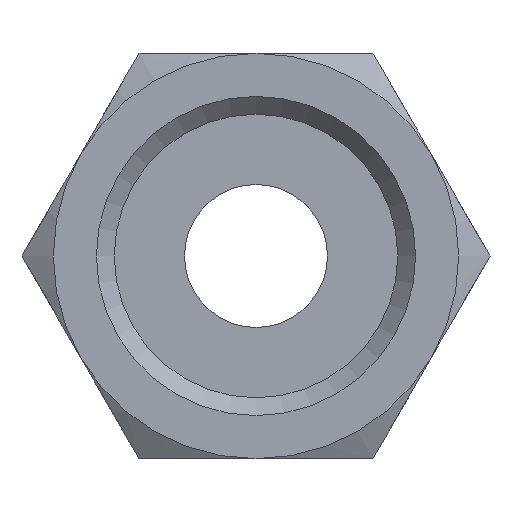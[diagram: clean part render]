
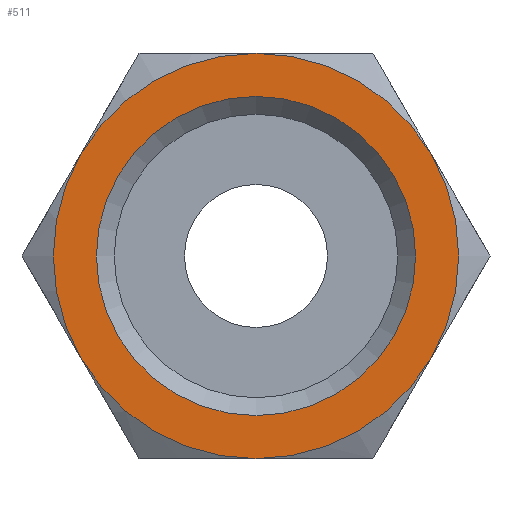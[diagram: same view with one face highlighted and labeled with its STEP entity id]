
A CAD part, front view. The second image highlights one B-rep face of the part: STEP entity #511.
In plain terms, the highlighted planar face has unit normal (0, -1, 0).
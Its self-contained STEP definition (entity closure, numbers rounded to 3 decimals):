
#39=FACE_BOUND('',#145,.T.);
#46=PLANE('',#573);
#110=FACE_OUTER_BOUND('',#144,.T.);
#144=EDGE_LOOP('',(#365,#366,#367,#368,#369,#370));
#145=EDGE_LOOP('',(#371));
#189=CIRCLE('',#572,6.695);
#190=CIRCLE('',#574,8.5);
#191=CIRCLE('',#575,8.5);
#192=CIRCLE('',#576,8.5);
#193=CIRCLE('',#577,8.5);
#194=CIRCLE('',#578,8.5);
#195=CIRCLE('',#579,8.5);
#228=VERTEX_POINT('',#818);
#229=VERTEX_POINT('',#822);
#230=VERTEX_POINT('',#823);
#231=VERTEX_POINT('',#825);
#232=VERTEX_POINT('',#827);
#233=VERTEX_POINT('',#829);
#234=VERTEX_POINT('',#831);
#282=EDGE_CURVE('',#228,#228,#189,.T.);
#283=EDGE_CURVE('',#229,#230,#190,.T.);
#284=EDGE_CURVE('',#230,#231,#191,.T.);
#285=EDGE_CURVE('',#231,#232,#192,.T.);
#286=EDGE_CURVE('',#232,#233,#193,.T.);
#287=EDGE_CURVE('',#233,#234,#194,.T.);
#288=EDGE_CURVE('',#234,#229,#195,.T.);
#365=ORIENTED_EDGE('',*,*,#283,.T.);
#366=ORIENTED_EDGE('',*,*,#284,.T.);
#367=ORIENTED_EDGE('',*,*,#285,.T.);
#368=ORIENTED_EDGE('',*,*,#286,.T.);
#369=ORIENTED_EDGE('',*,*,#287,.T.);
#370=ORIENTED_EDGE('',*,*,#288,.T.);
#371=ORIENTED_EDGE('',*,*,#282,.F.);
#511=ADVANCED_FACE('',(#110,#39),#46,.T.);
#572=AXIS2_PLACEMENT_3D('',#820,#660,#661);
#573=AXIS2_PLACEMENT_3D('',#821,#662,#663);
#574=AXIS2_PLACEMENT_3D('',#824,#664,#665);
#575=AXIS2_PLACEMENT_3D('',#826,#666,#667);
#576=AXIS2_PLACEMENT_3D('',#828,#668,#669);
#577=AXIS2_PLACEMENT_3D('',#830,#670,#671);
#578=AXIS2_PLACEMENT_3D('',#832,#672,#673);
#579=AXIS2_PLACEMENT_3D('',#833,#674,#675);
#660=DIRECTION('center_axis',(0.,-1.,0.));
#661=DIRECTION('ref_axis',(-1.,0.,0.));
#662=DIRECTION('center_axis',(0.,-1.,0.));
#663=DIRECTION('ref_axis',(0.,0.,-1.));
#664=DIRECTION('center_axis',(0.,-1.,0.));
#665=DIRECTION('ref_axis',(1.,0.,0.));
#666=DIRECTION('center_axis',(0.,-1.,0.));
#667=DIRECTION('ref_axis',(1.,0.,0.));
#668=DIRECTION('center_axis',(0.,-1.,0.));
#669=DIRECTION('ref_axis',(1.,0.,0.));
#670=DIRECTION('center_axis',(0.,-1.,0.));
#671=DIRECTION('ref_axis',(1.,0.,0.));
#672=DIRECTION('center_axis',(0.,-1.,0.));
#673=DIRECTION('ref_axis',(1.,0.,0.));
#674=DIRECTION('center_axis',(0.,-1.,0.));
#675=DIRECTION('ref_axis',(1.,0.,0.));
#818=CARTESIAN_POINT('',(6.695,0.,0.));
#820=CARTESIAN_POINT('Origin',(0.,0.,0.));
#821=CARTESIAN_POINT('Origin',(5.945,0.,0.));
#822=CARTESIAN_POINT('',(7.361,0.,4.25));
#823=CARTESIAN_POINT('',(0.,0.,8.5));
#824=CARTESIAN_POINT('Origin',(0.,0.,0.));
#825=CARTESIAN_POINT('',(-7.361,0.,4.25));
#826=CARTESIAN_POINT('Origin',(0.,0.,0.));
#827=CARTESIAN_POINT('',(-7.361,0.,-4.25));
#828=CARTESIAN_POINT('Origin',(0.,0.,0.));
#829=CARTESIAN_POINT('',(0.,0.,-8.5));
#830=CARTESIAN_POINT('Origin',(0.,0.,0.));
#831=CARTESIAN_POINT('',(7.361,0.,-4.25));
#832=CARTESIAN_POINT('Origin',(0.,0.,0.));
#833=CARTESIAN_POINT('Origin',(0.,0.,0.));
